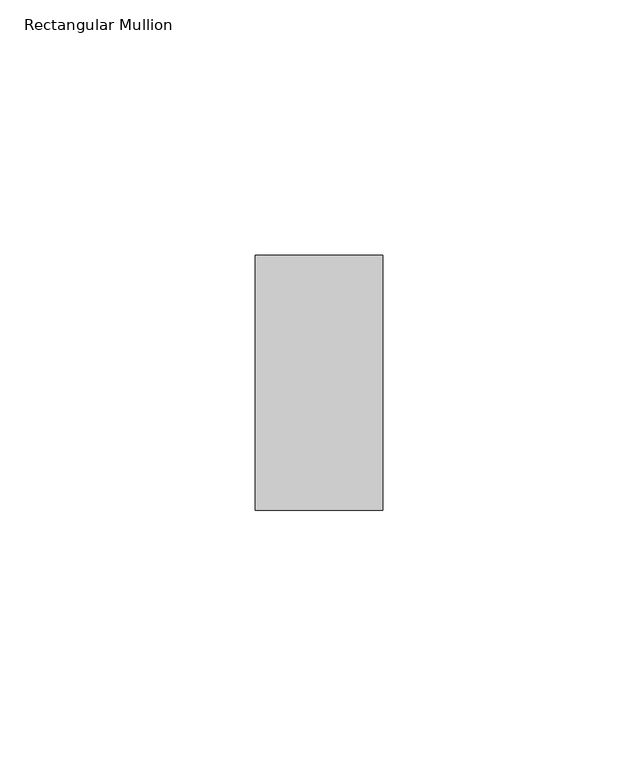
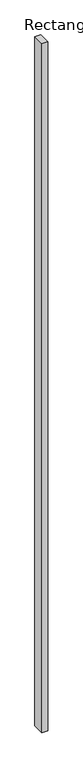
"""IFC4 building model written with IfcOpenShell, lengths in millimetres: member geometry, Rectangular Mullion : Batten_Aluminium_Modinex_AluBatten_25x50_AfricanEbony."""

from ifc_helpers import new_model, si_unit, frame, origin, place, context, project, spatial, polyline, outline, extrude, source, transform, mapped, element, save


def rectangular_mullion_5535ef50(model_context):
    return source(origin(), model_context, "Body", "SweptSolid", [
        extrude(outline(polyline([(12.5, 50.0), (12.5, 0.0), (-12.5, 0.0), (-12.5, 50.0), (12.5, 50.0)])), frame((0.0, 0.0, -3000.0), z_axis=(0.0, 0.0, 1.0), x_axis=(1.0, 0.0, 0.0)), (0.0, 0.0, 1.0), 3000.0),
    ])


if __name__ == "__main__":
    model = new_model("IFC4")
    model_context = context("Model", 3, world=origin())
    ifc_project = project(units=[si_unit("LENGTHUNIT", "METRE", prefix="MILLI")], contexts=[model_context])
    site = spatial("IfcSite", under=ifc_project)
    building = spatial("IfcBuilding", under=site)
    placement = place(None, origin())
    rectangular_mullion_shape = rectangular_mullion_5535ef50(model_context)
    element("IfcMember", 1, ObjectType="Rectangular Mullion : Batten_Aluminium_Modinex_AluBatten_25x50_AfricanEbony", at=placement, inside=building, context=model_context, shape_type="MappedRepresentation", body=[
        mapped(rectangular_mullion_shape, transform((0.0, 0.0, 0.0), x_axis=(1.0, 0.0, 0.0), y_axis=(0.0, 1.0, 0.0), z_axis=(0.0, 0.0, 1.0))),
    ])
    save(model, "model.ifc")
